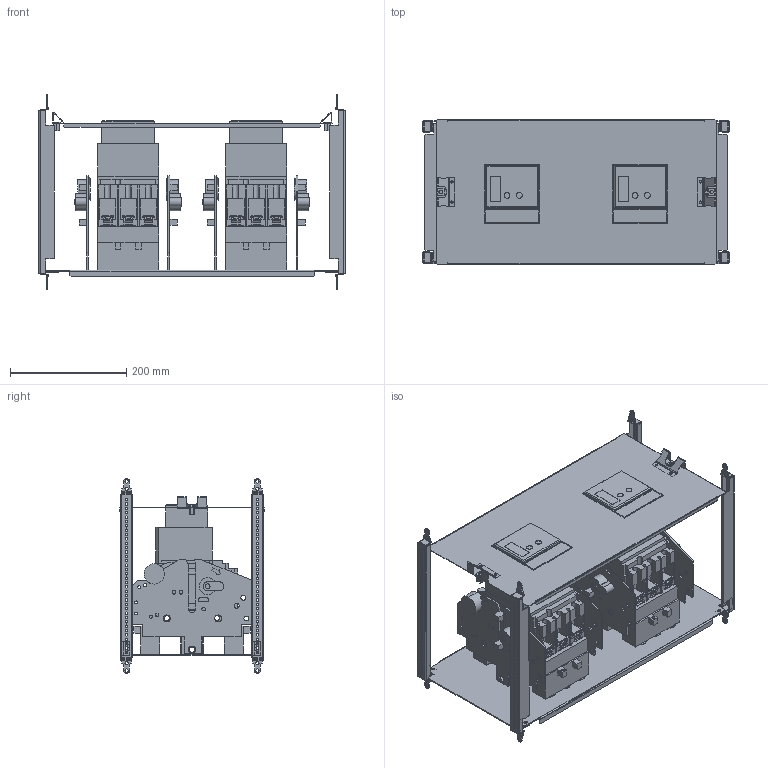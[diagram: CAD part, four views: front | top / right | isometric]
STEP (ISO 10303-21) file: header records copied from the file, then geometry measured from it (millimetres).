
FILE_DESCRIPTION(('CAx-IF Rec.Pracs.---Model Styling and Organization---1.2---2011-12-15','CAx-IF Rec.Pracs.---Geometric and Assembly Validation Properties---4.1---2014-06-16','CAx-IF Rec.Pracs.---PMI Polyline Presentation---2.0---2013-05-24'),'2;1');
FILE_NAME('R5PKIB7V61913 (W-MO).stp','2021-07-29T03:10:54+03:00',(''),(''),'STEP Interface 4.4 by CT CoreTechnologie','3D_Evolution4.4 by CT CoreTechnologie','');
FILE_SCHEMA(('AUTOMOTIVE_DESIGN { 1 0 10303 214 1 1 1 1 }'));
Length unit declared in the file: millimetre
Products named in the file (1): R5PKIB7V61913 (W-MO)
Bounding box: 526 x 248 x 335 mm (x, y, z)
Surface area: 1524661 mm2 (no closed solid volume)
Topology: 0 solids, 80 shells, 3296 faces, 9556 edges, 6462 vertices
Faces by surface type: plane 2270, cylinder 924, bspline 102
Entity records: 110496 total; most frequent: CARTESIAN_POINT 20667, ORIENTED_EDGE 19076, DIRECTION 17892, EDGE_CURVE 9544, VECTOR 7510, LINE 7510, VERTEX_POINT 6498, AXIS2_PLACEMENT_3D 5191
